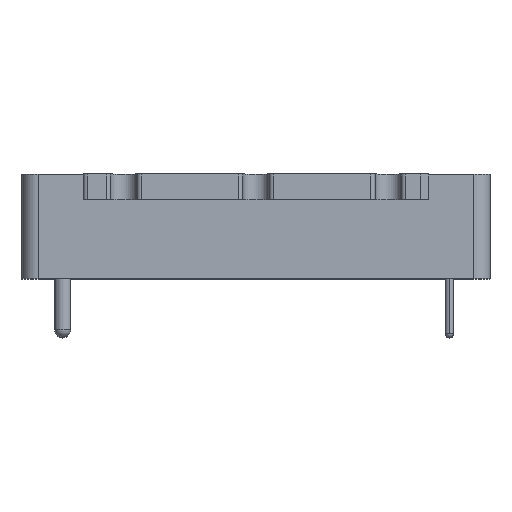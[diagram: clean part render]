
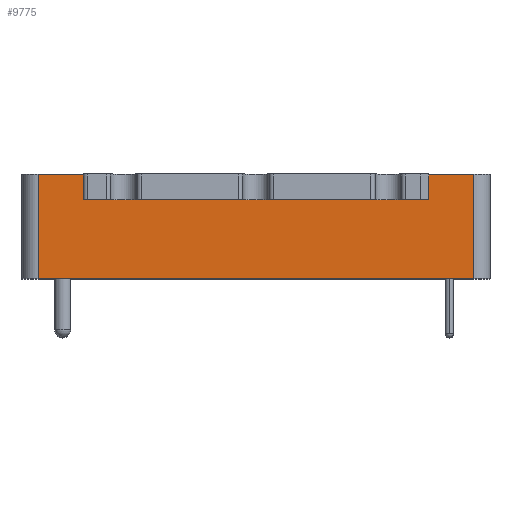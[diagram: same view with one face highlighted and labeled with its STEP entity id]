
A CAD part, top view. The second image highlights one B-rep face of the part: STEP entity #9775.
In plain terms, the highlighted planar face has unit normal (0, 0, 1).
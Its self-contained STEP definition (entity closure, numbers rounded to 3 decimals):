
#167 = ORIENTED_EDGE ( 'NONE', *, *, #1027, .F. ) ;
#281 = EDGE_CURVE ( 'NONE', #10620, #4629, #8686, .T. ) ;
#571 = VECTOR ( 'NONE', #2808, 1000. ) ;
#579 = CARTESIAN_POINT ( 'NONE',  ( -27.2, 13., 30.5 ) ) ;
#613 = ORIENTED_EDGE ( 'NONE', *, *, #5119, .F. ) ;
#721 = ORIENTED_EDGE ( 'NONE', *, *, #10497, .T. ) ;
#723 = CARTESIAN_POINT ( 'NONE',  ( -27.2, 0., 30.5 ) ) ;
#809 = CARTESIAN_POINT ( 'NONE',  ( -21.555, 12., 30.5 ) ) ;
#960 = CARTESIAN_POINT ( 'NONE',  ( 0., 12., 30.5 ) ) ;
#1027 = EDGE_CURVE ( 'NONE', #8179, #10620, #11379, .T. ) ;
#1552 = VERTEX_POINT ( 'NONE', #579 ) ;
#1677 = CARTESIAN_POINT ( 'NONE',  ( -21.58, 12., 30.5 ) ) ;
#1773 = CARTESIAN_POINT ( 'NONE',  ( 27.2, 13., 30.5 ) ) ;
#1824 = DIRECTION ( 'NONE',  ( 1., 0., 0. ) ) ;
#1865 = DIRECTION ( 'NONE',  ( 1., 0., 0. ) ) ;
#2305 = VECTOR ( 'NONE', #1865, 1000. ) ;
#2356 = EDGE_CURVE ( 'NONE', #4629, #13191, #2865, .T. ) ;
#2423 = ORIENTED_EDGE ( 'NONE', *, *, #3408, .F. ) ;
#2516 = CARTESIAN_POINT ( 'NONE',  ( -21.58, 13., 30.5 ) ) ;
#2742 = LINE ( 'NONE', #6843, #11639 ) ;
#2800 = VECTOR ( 'NONE', #3765, 1000. ) ;
#2808 = DIRECTION ( 'NONE',  ( 0., -1., 0. ) ) ;
#2865 = LINE ( 'NONE', #7031, #7889 ) ;
#3040 = LINE ( 'NONE', #7411, #9781 ) ;
#3408 = EDGE_CURVE ( 'NONE', #13191, #12855, #2742, .T. ) ;
#3494 = CARTESIAN_POINT ( 'NONE',  ( 21.58, 12., 30.5 ) ) ;
#3634 = ORIENTED_EDGE ( 'NONE', *, *, #11004, .T. ) ;
#3765 = DIRECTION ( 'NONE',  ( 0., -1., 0. ) ) ;
#3945 = EDGE_CURVE ( 'NONE', #1552, #6616, #3040, .T. ) ;
#4154 = LINE ( 'NONE', #12510, #6361 ) ;
#4324 = DIRECTION ( 'NONE',  ( 0., 1., 0. ) ) ;
#4424 = ORIENTED_EDGE ( 'NONE', *, *, #281, .F. ) ;
#4629 = VERTEX_POINT ( 'NONE', #10085 ) ;
#4882 = CARTESIAN_POINT ( 'NONE',  ( 27.2, 0., 30.5 ) ) ;
#5118 = ORIENTED_EDGE ( 'NONE', *, *, #11871, .T. ) ;
#5119 = EDGE_CURVE ( 'NONE', #10656, #8363, #11145, .T. ) ;
#5232 = ORIENTED_EDGE ( 'NONE', *, *, #8506, .F. ) ;
#5459 = VERTEX_POINT ( 'NONE', #8872 ) ;
#5521 = FACE_OUTER_BOUND ( 'NONE', #11928, .T. ) ;
#5769 = ORIENTED_EDGE ( 'NONE', *, *, #3945, .F. ) ;
#6262 = AXIS2_PLACEMENT_3D ( 'NONE', #9763, #9838, #11951 ) ;
#6322 = DIRECTION ( 'NONE',  ( 1., 0., 0. ) ) ;
#6361 = VECTOR ( 'NONE', #7277, 1000. ) ;
#6421 = CARTESIAN_POINT ( 'NONE',  ( -27.2, 12., 30.5 ) ) ;
#6542 = VECTOR ( 'NONE', #10750, 1000. ) ;
#6616 = VERTEX_POINT ( 'NONE', #2516 ) ;
#6702 = DIRECTION ( 'NONE',  ( 0., 1., 0. ) ) ;
#6843 = CARTESIAN_POINT ( 'NONE',  ( 21.58, 12., 30.5 ) ) ;
#7012 = LINE ( 'NONE', #723, #2305 ) ;
#7031 = CARTESIAN_POINT ( 'NONE',  ( 0., 12., 30.5 ) ) ;
#7277 = DIRECTION ( 'NONE',  ( 1., 0., 0. ) ) ;
#7411 = CARTESIAN_POINT ( 'NONE',  ( -27.2, 13., 30.5 ) ) ;
#7889 = VECTOR ( 'NONE', #1824, 1000. ) ;
#7902 = PLANE ( 'NONE',  #6262 ) ;
#7938 = LINE ( 'NONE', #12120, #571 ) ;
#8037 = VECTOR ( 'NONE', #4324, 1000. ) ;
#8049 = ORIENTED_EDGE ( 'NONE', *, *, #2356, .F. ) ;
#8179 = VERTEX_POINT ( 'NONE', #1677 ) ;
#8293 = DIRECTION ( 'NONE',  ( 1., 0., 0. ) ) ;
#8363 = VERTEX_POINT ( 'NONE', #4882 ) ;
#8506 = EDGE_CURVE ( 'NONE', #12855, #10656, #4154, .T. ) ;
#8686 = LINE ( 'NONE', #6421, #6542 ) ;
#8872 = CARTESIAN_POINT ( 'NONE',  ( -27.2, 0., 30.5 ) ) ;
#9407 = VECTOR ( 'NONE', #8293, 1000. ) ;
#9526 = CARTESIAN_POINT ( 'NONE',  ( -21.58, 12., 30.5 ) ) ;
#9763 = CARTESIAN_POINT ( 'NONE',  ( -27.2, 13., 30.5 ) ) ;
#9775 = ADVANCED_FACE ( 'NONE', ( #5521 ), #7902, .F. ) ;
#9781 = VECTOR ( 'NONE', #6322, 1000. ) ;
#9838 = DIRECTION ( 'NONE',  ( 0., 0., -1. ) ) ;
#10085 = CARTESIAN_POINT ( 'NONE',  ( 21.555, 12., 30.5 ) ) ;
#10280 = CARTESIAN_POINT ( 'NONE',  ( 21.58, 13., 30.5 ) ) ;
#10497 = EDGE_CURVE ( 'NONE', #8179, #6616, #13433, .T. ) ;
#10620 = VERTEX_POINT ( 'NONE', #809 ) ;
#10656 = VERTEX_POINT ( 'NONE', #1773 ) ;
#10750 = DIRECTION ( 'NONE',  ( 1., 0., 0. ) ) ;
#11004 = EDGE_CURVE ( 'NONE', #5459, #8363, #7012, .T. ) ;
#11073 = CARTESIAN_POINT ( 'NONE',  ( 27.2, 13., 30.5 ) ) ;
#11145 = LINE ( 'NONE', #11073, #2800 ) ;
#11379 = LINE ( 'NONE', #960, #9407 ) ;
#11639 = VECTOR ( 'NONE', #6702, 1000. ) ;
#11871 = EDGE_CURVE ( 'NONE', #1552, #5459, #7938, .T. ) ;
#11928 = EDGE_LOOP ( 'NONE', ( #3634, #613, #5232, #2423, #8049, #4424, #167, #721, #5769, #5118 ) ) ;
#11951 = DIRECTION ( 'NONE',  ( -1., 0., 0. ) ) ;
#12120 = CARTESIAN_POINT ( 'NONE',  ( -27.2, 13., 30.5 ) ) ;
#12510 = CARTESIAN_POINT ( 'NONE',  ( -27.2, 13., 30.5 ) ) ;
#12855 = VERTEX_POINT ( 'NONE', #10280 ) ;
#13191 = VERTEX_POINT ( 'NONE', #3494 ) ;
#13433 = LINE ( 'NONE', #9526, #8037 ) ;
